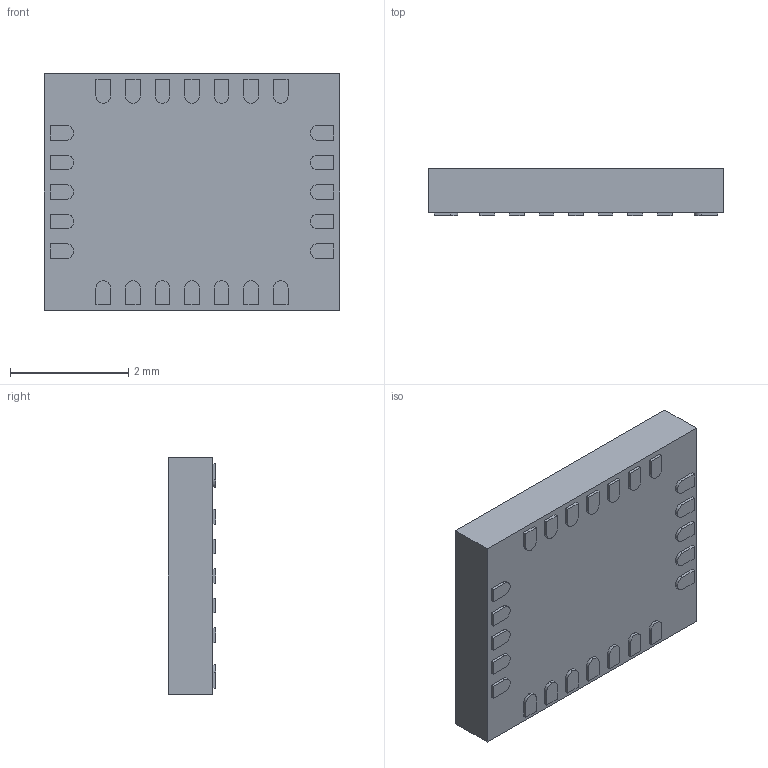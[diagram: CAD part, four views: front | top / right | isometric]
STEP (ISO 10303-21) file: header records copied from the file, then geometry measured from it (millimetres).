
FILE_DESCRIPTION (( 'STEP AP214' ), '1' );
FILE_NAME ( 'PQFN50P500X400X80-24.STEP', '2014-04-11T12:31:20', ( '' ), ( '' ), 'FPX Expert 2013', 'PCB Libraries', '' );
FILE_SCHEMA (( 'AUTOMOTIVE_DESIGN' ));
Length unit declared in the file: millimetre
Products named in the file (1): PQFN50P500X400X80-24
Bounding box: 5 x 0.8 x 4 mm (x, y, z)
Volume: 15.1 mm3; surface area: 59.5 mm2
Topology: 25 solids, 25 shells, 177 faces, 378 edges, 252 vertices
Faces by surface type: plane 127, cylinder 48, torus 2
Entity records: 5543 total; most frequent: DIRECTION 836, CARTESIAN_POINT 808, ORIENTED_EDGE 756, EDGE_CURVE 378, AXIS2_PLACEMENT_3D 280, VECTOR 276, LINE 276, VERTEX_POINT 252
